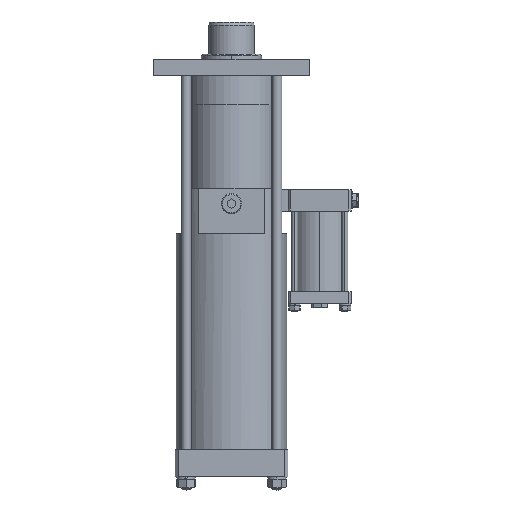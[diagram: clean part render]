
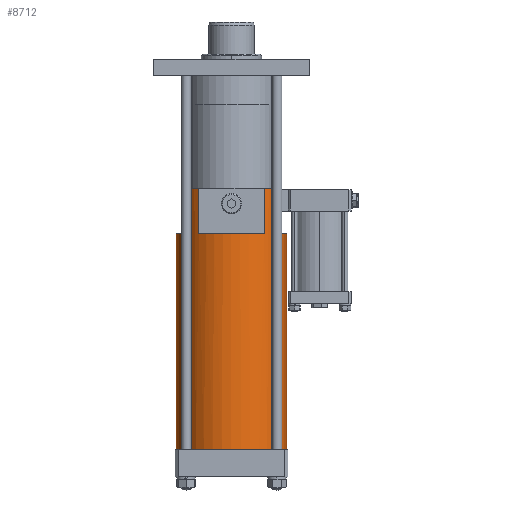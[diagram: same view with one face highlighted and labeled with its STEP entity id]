
A CAD part, front view. The second image highlights one B-rep face of the part: STEP entity #8712.
In plain terms, the highlighted cylindrical face has radius 55 mm (diameter 110 mm), a partial arc.
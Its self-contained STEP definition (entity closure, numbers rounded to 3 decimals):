
#14 = ORIENTED_EDGE ( 'NONE', *, *, #2496, .F. ) ;
#107 = DIRECTION ( 'NONE',  ( -1., 0., 0. ) ) ;
#210 = EDGE_CURVE ( 'NONE', #1317, #5733, #8848, .T. ) ;
#213 = DIRECTION ( 'NONE',  ( 0., 0., -1. ) ) ;
#234 = VECTOR ( 'NONE', #2663, 1000. ) ;
#241 = EDGE_CURVE ( 'NONE', #7058, #6091, #7379, .T. ) ;
#314 = VERTEX_POINT ( 'NONE', #8692 ) ;
#367 = CARTESIAN_POINT ( 'NONE',  ( -32.323, -44.5, -178. ) ) ;
#374 = CARTESIAN_POINT ( 'NONE',  ( 32.323, -44.5, -133. ) ) ;
#385 = EDGE_CURVE ( 'NONE', #1362, #314, #7243, .T. ) ;
#701 = CARTESIAN_POINT ( 'NONE',  ( 0., 0., -178. ) ) ;
#873 = CIRCLE ( 'NONE', #6088, 55. ) ;
#925 = CARTESIAN_POINT ( 'NONE',  ( -55., 0., -178. ) ) ;
#954 = AXIS2_PLACEMENT_3D ( 'NONE', #10422, #5296, #107 ) ;
#993 = VECTOR ( 'NONE', #4762, 1000. ) ;
#1095 = AXIS2_PLACEMENT_3D ( 'NONE', #7135, #1983, #7994 ) ;
#1235 = AXIS2_PLACEMENT_3D ( 'NONE', #3581, #9586, #4443 ) ;
#1280 = EDGE_LOOP ( 'NONE', ( #7672, #1720, #6910, #6521, #7668, #5640, #14, #7341, #7564, #8517, #7665, #6475 ) ) ;
#1317 = VERTEX_POINT ( 'NONE', #8305 ) ;
#1362 = VERTEX_POINT ( 'NONE', #6715 ) ;
#1552 = EDGE_CURVE ( 'NONE', #1317, #5157, #8407, .T. ) ;
#1564 = DIRECTION ( 'NONE',  ( -1., 0., 0. ) ) ;
#1720 = ORIENTED_EDGE ( 'NONE', *, *, #8120, .F. ) ;
#1781 = CARTESIAN_POINT ( 'NONE',  ( 32.323, -44.5, -262.5 ) ) ;
#1983 = DIRECTION ( 'NONE',  ( 0., 0., 1. ) ) ;
#2006 = DIRECTION ( 'NONE',  ( -1., 0., 0. ) ) ;
#2296 = FACE_OUTER_BOUND ( 'NONE', #1280, .T. ) ;
#2429 = VERTEX_POINT ( 'NONE', #6412 ) ;
#2496 = EDGE_CURVE ( 'NONE', #5265, #10061, #5848, .T. ) ;
#2663 = DIRECTION ( 'NONE',  ( 0., 0., 1. ) ) ;
#3032 = CARTESIAN_POINT ( 'NONE',  ( -32.323, -44.5, -262.5 ) ) ;
#3197 = CARTESIAN_POINT ( 'NONE',  ( -44.5, -32.323, -178. ) ) ;
#3264 = CARTESIAN_POINT ( 'NONE',  ( 44.5, -32.323, -262.5 ) ) ;
#3453 = EDGE_CURVE ( 'NONE', #5265, #7058, #8742, .T. ) ;
#3581 = CARTESIAN_POINT ( 'NONE',  ( 0., 0., -133. ) ) ;
#3737 = CARTESIAN_POINT ( 'NONE',  ( 0., 0., -392. ) ) ;
#3761 = CIRCLE ( 'NONE', #954, 55. ) ;
#3768 = CARTESIAN_POINT ( 'NONE',  ( 55., 0., -133. ) ) ;
#4132 = DIRECTION ( 'NONE',  ( 0., 0., -1. ) ) ;
#4291 = AXIS2_PLACEMENT_3D ( 'NONE', #701, #6731, #1564 ) ;
#4443 = DIRECTION ( 'NONE',  ( -1., 0., 0. ) ) ;
#4570 = DIRECTION ( 'NONE',  ( 0., 0., -1. ) ) ;
#4611 = DIRECTION ( 'NONE',  ( -1., 0., 0. ) ) ;
#4700 = VECTOR ( 'NONE', #4570, 1000. ) ;
#4762 = DIRECTION ( 'NONE',  ( 0., 0., -1. ) ) ;
#4770 = LINE ( 'NONE', #8288, #6779 ) ;
#4846 = DIRECTION ( 'NONE',  ( 0., 0., -1. ) ) ;
#4949 = EDGE_CURVE ( 'NONE', #9904, #5157, #10616, .T. ) ;
#4971 = EDGE_CURVE ( 'NONE', #10061, #9904, #3761, .T. ) ;
#5157 = VERTEX_POINT ( 'NONE', #374 ) ;
#5265 = VERTEX_POINT ( 'NONE', #8293 ) ;
#5296 = DIRECTION ( 'NONE',  ( 0., 0., 1. ) ) ;
#5327 = CARTESIAN_POINT ( 'NONE',  ( 44.5, -32.323, -178. ) ) ;
#5640 = ORIENTED_EDGE ( 'NONE', *, *, #4971, .F. ) ;
#5733 = VERTEX_POINT ( 'NONE', #5327 ) ;
#5848 = LINE ( 'NONE', #3032, #993 ) ;
#6088 = AXIS2_PLACEMENT_3D ( 'NONE', #3737, #9738, #4611 ) ;
#6091 = VERTEX_POINT ( 'NONE', #3197 ) ;
#6237 = CIRCLE ( 'NONE', #4291, 55. ) ;
#6295 = VECTOR ( 'NONE', #4132, 1000. ) ;
#6306 = EDGE_CURVE ( 'NONE', #9193, #2429, #4770, .T. ) ;
#6399 = EDGE_CURVE ( 'NONE', #9193, #6091, #6237, .T. ) ;
#6412 = CARTESIAN_POINT ( 'NONE',  ( -55., 0., -392. ) ) ;
#6450 = AXIS2_PLACEMENT_3D ( 'NONE', #7163, #213, #2006 ) ;
#6475 = ORIENTED_EDGE ( 'NONE', *, *, #9981, .F. ) ;
#6521 = ORIENTED_EDGE ( 'NONE', *, *, #1552, .T. ) ;
#6715 = CARTESIAN_POINT ( 'NONE',  ( 55., 0., -178. ) ) ;
#6731 = DIRECTION ( 'NONE',  ( 0., 0., 1. ) ) ;
#6779 = VECTOR ( 'NONE', #10028, 1000. ) ;
#6840 = VECTOR ( 'NONE', #7026, 1000. ) ;
#6910 = ORIENTED_EDGE ( 'NONE', *, *, #210, .F. ) ;
#7026 = DIRECTION ( 'NONE',  ( 0., 0., -1. ) ) ;
#7046 = AXIS2_PLACEMENT_3D ( 'NONE', #9982, #4846, #10868 ) ;
#7058 = VERTEX_POINT ( 'NONE', #10053 ) ;
#7135 = CARTESIAN_POINT ( 'NONE',  ( 0., 0., -178. ) ) ;
#7163 = CARTESIAN_POINT ( 'NONE',  ( 0., 0., -133. ) ) ;
#7243 = LINE ( 'NONE', #3768, #4700 ) ;
#7341 = ORIENTED_EDGE ( 'NONE', *, *, #3453, .T. ) ;
#7379 = LINE ( 'NONE', #7849, #6295 ) ;
#7430 = CIRCLE ( 'NONE', #1095, 55. ) ;
#7564 = ORIENTED_EDGE ( 'NONE', *, *, #241, .T. ) ;
#7665 = ORIENTED_EDGE ( 'NONE', *, *, #6306, .T. ) ;
#7668 = ORIENTED_EDGE ( 'NONE', *, *, #4949, .F. ) ;
#7672 = ORIENTED_EDGE ( 'NONE', *, *, #385, .F. ) ;
#7849 = CARTESIAN_POINT ( 'NONE',  ( -44.5, -32.323, -155.5 ) ) ;
#7994 = DIRECTION ( 'NONE',  ( -1., 0., 0. ) ) ;
#8120 = EDGE_CURVE ( 'NONE', #5733, #1362, #7430, .T. ) ;
#8288 = CARTESIAN_POINT ( 'NONE',  ( -55., 0., -133. ) ) ;
#8293 = CARTESIAN_POINT ( 'NONE',  ( -32.323, -44.5, -133. ) ) ;
#8305 = CARTESIAN_POINT ( 'NONE',  ( 44.5, -32.323, -133. ) ) ;
#8407 = CIRCLE ( 'NONE', #1235, 55. ) ;
#8517 = ORIENTED_EDGE ( 'NONE', *, *, #6399, .F. ) ;
#8613 = CYLINDRICAL_SURFACE ( 'NONE', #6450, 55. ) ;
#8655 = CARTESIAN_POINT ( 'NONE',  ( 32.323, -44.5, -178. ) ) ;
#8692 = CARTESIAN_POINT ( 'NONE',  ( 55., 0., -392. ) ) ;
#8712 = ADVANCED_FACE ( 'NONE', ( #2296 ), #8613, .T. ) ;
#8742 = CIRCLE ( 'NONE', #7046, 55. ) ;
#8848 = LINE ( 'NONE', #3264, #6840 ) ;
#9193 = VERTEX_POINT ( 'NONE', #925 ) ;
#9586 = DIRECTION ( 'NONE',  ( 0., 0., -1. ) ) ;
#9738 = DIRECTION ( 'NONE',  ( 0., 0., -1. ) ) ;
#9904 = VERTEX_POINT ( 'NONE', #8655 ) ;
#9981 = EDGE_CURVE ( 'NONE', #314, #2429, #873, .T. ) ;
#9982 = CARTESIAN_POINT ( 'NONE',  ( 0., 0., -133. ) ) ;
#10028 = DIRECTION ( 'NONE',  ( 0., 0., -1. ) ) ;
#10053 = CARTESIAN_POINT ( 'NONE',  ( -44.5, -32.323, -133. ) ) ;
#10061 = VERTEX_POINT ( 'NONE', #367 ) ;
#10422 = CARTESIAN_POINT ( 'NONE',  ( 0., 0., -178. ) ) ;
#10616 = LINE ( 'NONE', #1781, #234 ) ;
#10868 = DIRECTION ( 'NONE',  ( -1., 0., 0. ) ) ;
